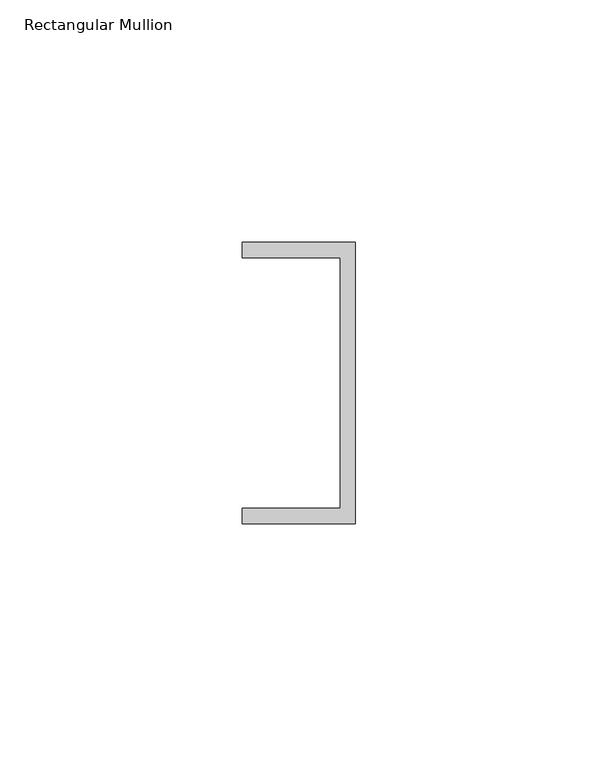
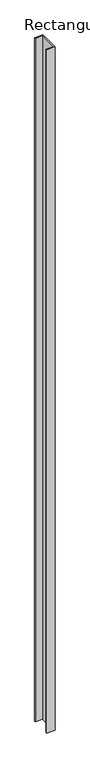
"""IFC4 building model written with IfcOpenShell, lengths in millimetres: member geometry, Rectangular Mullion : Frame-Teknion-Altos-Base_Channel."""

import ifcopenshell
import ifcopenshell.guid

model = None  # the IFC model being written
_history = None  # IfcOwnerHistory: only IFC2X3 demands one
_inside = {}  # id of a spatial element -> (the spatial element, [elements in it])
_under = {}  # id of a project, library or spatial element -> (it, [spatial elements below it])
_declared = {}  # id of a project -> (the project, [libraries it declares])
_typed = {}  # id of a type object -> (the type object, [elements of that type])
_made_of = {}  # id of a material, layer set ... -> (it, [elements and type objects made of it])


def new_model(schema):
    """Start an empty IFC model of exactly this schema.

    Asked for "IFC4X3", IfcOpenShell would pick the latest addendum, in which some entities
    have other attributes; the version numbers below select the first issue.
    IFC2X3 requires an IfcOwnerHistory on every rooted entity: one is made here for all.
    """
    global model, _history
    if schema == "IFC4X3":
        model = ifcopenshell.file(schema_version=(4, 3, 0, 0))
    else:
        model = ifcopenshell.file(schema=schema)
    _inside.clear()
    _under.clear()
    _declared.clear()
    _typed.clear()
    _made_of.clear()
    _history = None
    if model.schema == "IFC2X3":
        org = make("IfcOrganization", Name="unknown")
        user = make(
            "IfcPersonAndOrganization",
            ThePerson=make("IfcPerson", FamilyName="unknown"),
            TheOrganization=org,
        )
        app = make(
            "IfcApplication",
            ApplicationDeveloper=org,
            Version="unknown",
            ApplicationFullName="unknown",
            ApplicationIdentifier="unknown",
        )
        _history = make(
            "IfcOwnerHistory",
            OwningUser=user,
            OwningApplication=app,
            ChangeAction="ADDED",
            CreationDate=0,
        )
    return model


def make(cls, **values):
    """One entity of the class cls with the attributes given. An attribute that is None is left unset."""
    return model.create_entity(
        cls, **{name: value for name, value in values.items() if value is not None}
    )


def rooted(cls, **values):
    """An entity with a GlobalId (a new one), such as an element, a storey or a relation."""
    return make(cls, GlobalId=ifcopenshell.guid.new(), OwnerHistory=_history, **values)


def si_unit(unit_type, name, prefix=None):
    """IfcSIUnit, for example si_unit("LENGTHUNIT", "METRE", prefix="MILLI")."""
    return make("IfcSIUnit", UnitType=unit_type, Prefix=prefix, Name=name)


def assignment(units):
    """IfcUnitAssignment: the units of a project."""
    return None if units is None else make("IfcUnitAssignment", Units=units)


def point(xyz):
    """IfcCartesianPoint."""
    return None if xyz is None else make("IfcCartesianPoint", Coordinates=xyz)


def direction(xyz):
    """IfcDirection."""
    return None if xyz is None else make("IfcDirection", DirectionRatios=xyz)


def frame(location, z_axis=None, x_axis=None):
    """IfcAxis2Placement3D, a coordinate frame: its origin and axes. An axis left out is left unset."""
    return make(
        "IfcAxis2Placement3D",
        Location=point(location),
        Axis=direction(z_axis),
        RefDirection=direction(x_axis),
    )


def origin():
    """The frame at (0, 0, 0) with its axes left unset."""
    return frame((0.0, 0.0, 0.0))


def place(relative_to, where):
    """IfcLocalPlacement: puts the frame where relative to a parent placement (None: the world)."""
    return make(
        "IfcLocalPlacement", PlacementRelTo=relative_to, RelativePlacement=where
    )


def context(
    kind, dimensions, precision=None, world=None, true_north=None, identifier=None
):
    """IfcGeometricRepresentationContext, for example the 3D "Model" context."""
    return make(
        "IfcGeometricRepresentationContext",
        ContextIdentifier=identifier,
        ContextType=kind,
        CoordinateSpaceDimension=dimensions,
        Precision=precision,
        WorldCoordinateSystem=world,
        TrueNorth=true_north,
    )


def project(units=None, contexts=None):
    """IfcProject with its units and contexts."""
    return rooted(
        "IfcProject",
        Name="project",
        RepresentationContexts=contexts,
        UnitsInContext=assignment(units),
    )


def spatial(cls, under=None, at=None, **own):
    """A site, building, storey or space (cls), placed at a placement, below another one or the project."""
    s = rooted(cls, ObjectPlacement=at, **own)
    if under is not None:
        _under.setdefault(under.id(), (under, []))[1].append(s)
    return s


def polyline(points):
    """IfcPolyline through the points."""
    return make("IfcPolyline", Points=[point(p) for p in points])


def outline(outer, holes=None, kind="AREA"):
    """IfcArbitraryClosedProfileDef: a profile drawn as a closed curve; with holes, ...WithVoids."""
    if holes is None:
        return make("IfcArbitraryClosedProfileDef", ProfileType=kind, OuterCurve=outer)
    return make(
        "IfcArbitraryProfileDefWithVoids",
        ProfileType=kind,
        OuterCurve=outer,
        InnerCurves=holes,
    )


def extrude(swept, where, along, depth):
    """IfcExtrudedAreaSolid: the profile swept, set in the frame where, extruded along a direction by depth."""
    return make(
        "IfcExtrudedAreaSolid",
        SweptArea=swept,
        Position=where,
        ExtrudedDirection=direction(along),
        Depth=depth,
    )


def shape(context_of_items, identifier, shape_type, items):
    """IfcShapeRepresentation: the items that make up one representation, for example the "Body"."""
    return make(
        "IfcShapeRepresentation",
        ContextOfItems=context_of_items,
        RepresentationIdentifier=identifier,
        RepresentationType=shape_type,
        Items=items,
    )


def source(mapping_origin, context_of_items, identifier, shape_type, items):
    """IfcRepresentationMap: a shape defined once, which mapped items show again and again."""
    return make(
        "IfcRepresentationMap",
        MappingOrigin=mapping_origin,
        MappedRepresentation=shape(context_of_items, identifier, shape_type, items),
    )


def transform(
    local_origin,
    x_axis=None,
    y_axis=None,
    z_axis=None,
    scale=None,
    scale2=None,
    scale3=None,
    uniform=True,
):
    """IfcCartesianTransformationOperator3D, or its non-uniform kind. x_axis, y_axis, z_axis: its Axis1, 2, 3."""
    if uniform:
        return make(
            "IfcCartesianTransformationOperator3D",
            Axis1=direction(x_axis),
            Axis2=direction(y_axis),
            LocalOrigin=point(local_origin),
            Scale=scale,
            Axis3=direction(z_axis),
        )
    return make(
        "IfcCartesianTransformationOperator3DnonUniform",
        Axis1=direction(x_axis),
        Axis2=direction(y_axis),
        LocalOrigin=point(local_origin),
        Scale=scale,
        Axis3=direction(z_axis),
        Scale2=scale2,
        Scale3=scale3,
    )


def mapped(mapping_source, mapping_target):
    """IfcMappedItem: shows the shape of a source again, moved by a transform."""
    return make(
        "IfcMappedItem", MappingSource=mapping_source, MappingTarget=mapping_target
    )


def made_of(thing, what):
    """Note that an element or type object is made of a material, layer set ...; save() writes the relation."""
    if what is not None:
        _made_of.setdefault(what.id(), (what, []))[1].append(thing)
    return thing


def element(
    cls,
    number,
    at=None,
    inside=None,
    cuts=None,
    type_object=None,
    material=None,
    context=None,
    identifier="Body",
    shape_type=None,
    held_by="IfcProductDefinitionShape",
    body=None,
    shapes=None,
    **own,
):
    """One element of the class cls, such as IfcWall. Its Tag is "e" and its number.

    at: its placement. inside: the storey or other place that contains it. cuts: it is an
    opening in that element (IfcRelVoidsElement). A single representation is given by context,
    identifier, shape_type and body (its items); several are given by shapes. held_by: the class
    of the entity that holds the representations. save() writes the other relations.
    """
    e = rooted(cls, Tag="e%d" % number, ObjectPlacement=at, **own)
    if body is not None:
        shapes = [shape(context, identifier, shape_type, body)]
    if shapes is not None:
        e.Representation = make(held_by, Representations=shapes)
    if inside is not None:
        _inside.setdefault(inside.id(), (inside, []))[1].append(e)
    if cuts is not None:
        rooted(
            "IfcRelVoidsElement", RelatingBuildingElement=cuts, RelatedOpeningElement=e
        )
    if type_object is not None:
        _typed.setdefault(type_object.id(), (type_object, []))[1].append(e)
    return made_of(e, material)


def aggregate(whole, parts):
    """IfcRelAggregates: a whole, such as a stair, and the parts it consists of."""
    return rooted("IfcRelAggregates", RelatingObject=whole, RelatedObjects=parts)


def save(model, path):
    """Write the relations noted so far, then the file.

    IfcRelAggregates (storeys below a building ...), IfcRelContainedInSpatialStructure (elements
    in a storey), IfcRelDefinesByType, IfcRelAssociatesMaterial and IfcRelDeclares: one each for
    every whole, place, type object, material and project.
    """
    for whole, parts in _under.values():
        aggregate(whole, parts)
    for where, things in _inside.values():
        rooted(
            "IfcRelContainedInSpatialStructure",
            RelatedElements=things,
            RelatingStructure=where,
        )
    for kind, things in _typed.values():
        rooted("IfcRelDefinesByType", RelatedObjects=things, RelatingType=kind)
    for what, things in _made_of.values():
        rooted("IfcRelAssociatesMaterial", RelatedObjects=things, RelatingMaterial=what)
    for by, libraries in _declared.values():
        rooted("IfcRelDeclares", RelatingContext=by, RelatedDefinitions=libraries)
    model.write(path)


def rectangular_mullion_eb75c081(model_context):
    return source(origin(), model_context, "Body", "SweptSolid", [
        extrude(outline(polyline([(0.0, 29.0214844), (0.0, -29.0214844), (-23.3164063, -29.0214844), (-23.3164063, -25.8464844), (-3.175, -25.8464844), (-3.175, 25.8464844), (-23.3164063, 25.8464844), (-23.3164063, 29.0214844), (0.0, 29.0214844)])), frame((0.0, 0.0, -2004.0203125), z_axis=(0.0, 0.0, 1.0), x_axis=(1.0, 0.0, 0.0)), (0.0, 0.0, 1.0), 2004.0203125),
    ])


if __name__ == "__main__":
    model = new_model("IFC4")
    model_context = context("Model", 3, world=origin())
    ifc_project = project(units=[si_unit("LENGTHUNIT", "METRE", prefix="MILLI")], contexts=[model_context])
    site = spatial("IfcSite", under=ifc_project)
    building = spatial("IfcBuilding", under=site)
    placement = place(None, origin())
    rectangular_mullion_shape = rectangular_mullion_eb75c081(model_context)
    element("IfcMember", 1, ObjectType="Rectangular Mullion : Frame-Teknion-Altos-Base_Channel", at=placement, inside=building, context=model_context, shape_type="MappedRepresentation", body=[
        mapped(rectangular_mullion_shape, transform((0.0, 0.0, 0.0), x_axis=(1.0, 0.0, 0.0), y_axis=(0.0, 1.0, 0.0), z_axis=(0.0, 0.0, 1.0))),
    ])
    save(model, "model.ifc")
